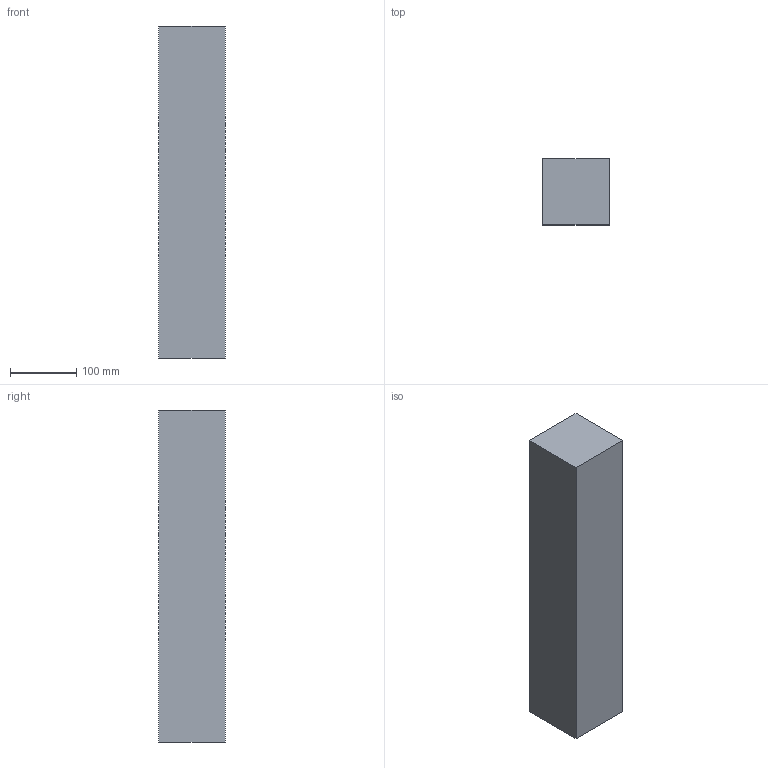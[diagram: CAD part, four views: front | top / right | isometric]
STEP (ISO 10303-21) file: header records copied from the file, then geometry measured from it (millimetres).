
FILE_DESCRIPTION (( 'STEP AP203' ), '1' );
FILE_NAME ('Para100_Défaut_sldprt.STEP', '2018-09-18T07:23:34', ( '' ), ( '' ), 'SwSTEP 2.0', 'SolidWorks 2015', '' );
FILE_SCHEMA (( 'CONFIG_CONTROL_DESIGN' ));
Length unit declared in the file: millimetre
Products named in the file (1): Para100_Défaut_sldprt
Bounding box: 100 x 100 x 500 mm (x, y, z)
Volume: 5000000 mm3; surface area: 220000 mm2
Topology: 1 solids, 1 shells, 6 faces, 12 edges, 8 vertices
Faces by surface type: plane 6
Entity records: 233 total; most frequent: CARTESIAN_POINT 27, DIRECTION 26, ORIENTED_EDGE 24, LINE 12, VECTOR 12, EDGE_CURVE 12, PERSON_AND_ORGANIZATION 8, VERTEX_POINT 8
